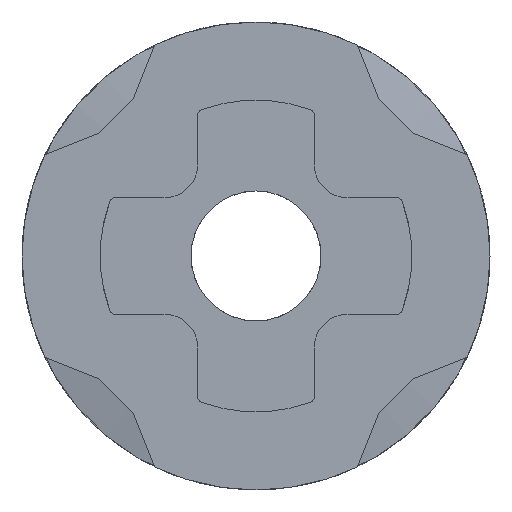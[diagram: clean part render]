
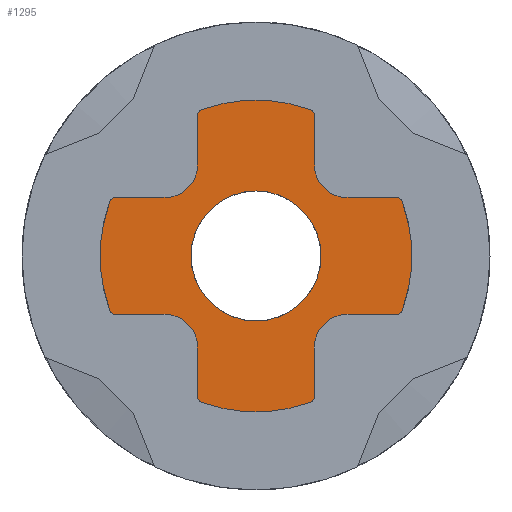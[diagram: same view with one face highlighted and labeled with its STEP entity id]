
A CAD part, left-side view. The second image highlights one B-rep face of the part: STEP entity #1295.
In plain terms, the highlighted planar face has unit normal (-1, 0, 0).
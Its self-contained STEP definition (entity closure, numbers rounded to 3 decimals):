
#43=PLANE('',#1419);
#61=CIRCLE('',#1356,1.);
#88=CIRCLE('',#1406,2.4);
#89=CIRCLE('',#1410,2.4);
#90=CIRCLE('',#1414,2.4);
#91=CIRCLE('',#1418,2.4);
#92=CIRCLE('',#1420,0.1);
#93=CIRCLE('',#1421,0.5);
#94=CIRCLE('',#1422,0.1);
#95=CIRCLE('',#1423,0.1);
#96=CIRCLE('',#1424,0.5);
#97=CIRCLE('',#1425,0.1);
#98=CIRCLE('',#1426,0.1);
#99=CIRCLE('',#1427,0.5);
#100=CIRCLE('',#1428,0.1);
#101=CIRCLE('',#1429,0.1);
#102=CIRCLE('',#1430,0.5);
#103=CIRCLE('',#1431,0.1);
#152=LINE('',#2154,#258);
#156=LINE('',#2162,#262);
#160=LINE('',#2172,#266);
#164=LINE('',#2180,#270);
#170=LINE('',#2206,#276);
#174=LINE('',#2214,#280);
#178=LINE('',#2224,#284);
#182=LINE('',#2232,#288);
#258=VECTOR('',#1637,1000.);
#262=VECTOR('',#1643,1000.);
#266=VECTOR('',#1653,1000.);
#270=VECTOR('',#1659,1000.);
#276=VECTOR('',#1671,1000.);
#280=VECTOR('',#1677,1000.);
#284=VECTOR('',#1687,1000.);
#288=VECTOR('',#1693,1000.);
#540=ORIENTED_EDGE('',*,*,#731,.F.);
#541=ORIENTED_EDGE('',*,*,#833,.T.);
#542=ORIENTED_EDGE('',*,*,#857,.T.);
#543=ORIENTED_EDGE('',*,*,#835,.T.);
#544=ORIENTED_EDGE('',*,*,#858,.T.);
#545=ORIENTED_EDGE('',*,*,#839,.T.);
#546=ORIENTED_EDGE('',*,*,#859,.T.);
#547=ORIENTED_EDGE('',*,*,#841,.T.);
#548=ORIENTED_EDGE('',*,*,#860,.T.);
#549=ORIENTED_EDGE('',*,*,#844,.T.);
#550=ORIENTED_EDGE('',*,*,#861,.T.);
#551=ORIENTED_EDGE('',*,*,#848,.T.);
#552=ORIENTED_EDGE('',*,*,#862,.T.);
#553=ORIENTED_EDGE('',*,*,#854,.T.);
#554=ORIENTED_EDGE('',*,*,#863,.T.);
#555=ORIENTED_EDGE('',*,*,#813,.T.);
#556=ORIENTED_EDGE('',*,*,#864,.T.);
#557=ORIENTED_EDGE('',*,*,#817,.T.);
#558=ORIENTED_EDGE('',*,*,#865,.T.);
#559=ORIENTED_EDGE('',*,*,#819,.T.);
#560=ORIENTED_EDGE('',*,*,#866,.T.);
#561=ORIENTED_EDGE('',*,*,#822,.T.);
#562=ORIENTED_EDGE('',*,*,#867,.T.);
#563=ORIENTED_EDGE('',*,*,#826,.T.);
#564=ORIENTED_EDGE('',*,*,#868,.T.);
#731=EDGE_CURVE('',#922,#922,#61,.T.);
#813=EDGE_CURVE('',#984,#985,#152,.T.);
#817=EDGE_CURVE('',#987,#986,#156,.T.);
#819=EDGE_CURVE('',#988,#989,#88,.T.);
#822=EDGE_CURVE('',#990,#991,#160,.T.);
#826=EDGE_CURVE('',#993,#992,#164,.T.);
#833=EDGE_CURVE('',#999,#998,#89,.T.);
#835=EDGE_CURVE('',#1000,#1001,#170,.T.);
#839=EDGE_CURVE('',#1003,#1002,#174,.T.);
#841=EDGE_CURVE('',#1004,#1005,#90,.T.);
#844=EDGE_CURVE('',#1006,#1007,#178,.T.);
#848=EDGE_CURVE('',#1009,#1008,#182,.T.);
#854=EDGE_CURVE('',#1014,#1015,#91,.T.);
#857=EDGE_CURVE('',#998,#1000,#92,.T.);
#858=EDGE_CURVE('',#1001,#1003,#93,.F.);
#859=EDGE_CURVE('',#1002,#1004,#94,.T.);
#860=EDGE_CURVE('',#1005,#1006,#95,.T.);
#861=EDGE_CURVE('',#1007,#1009,#96,.F.);
#862=EDGE_CURVE('',#1008,#1014,#97,.T.);
#863=EDGE_CURVE('',#1015,#984,#98,.T.);
#864=EDGE_CURVE('',#985,#987,#99,.F.);
#865=EDGE_CURVE('',#986,#988,#100,.T.);
#866=EDGE_CURVE('',#989,#990,#101,.T.);
#867=EDGE_CURVE('',#991,#993,#102,.F.);
#868=EDGE_CURVE('',#992,#999,#103,.T.);
#922=VERTEX_POINT('',#1932);
#984=VERTEX_POINT('',#2155);
#985=VERTEX_POINT('',#2156);
#986=VERTEX_POINT('',#2161);
#987=VERTEX_POINT('',#2163);
#988=VERTEX_POINT('',#2167);
#989=VERTEX_POINT('',#2168);
#990=VERTEX_POINT('',#2173);
#991=VERTEX_POINT('',#2174);
#992=VERTEX_POINT('',#2179);
#993=VERTEX_POINT('',#2181);
#998=VERTEX_POINT('',#2201);
#999=VERTEX_POINT('',#2203);
#1000=VERTEX_POINT('',#2207);
#1001=VERTEX_POINT('',#2208);
#1002=VERTEX_POINT('',#2213);
#1003=VERTEX_POINT('',#2215);
#1004=VERTEX_POINT('',#2219);
#1005=VERTEX_POINT('',#2220);
#1006=VERTEX_POINT('',#2225);
#1007=VERTEX_POINT('',#2226);
#1008=VERTEX_POINT('',#2231);
#1009=VERTEX_POINT('',#2233);
#1014=VERTEX_POINT('',#2253);
#1015=VERTEX_POINT('',#2254);
#1099=EDGE_LOOP('',(#540));
#1100=EDGE_LOOP('',(#541,#542,#543,#544,#545,#546,#547,#548,#549,#550,#551,
#552,#553,#554,#555,#556,#557,#558,#559,#560,#561,#562,#563,#564));
#1185=FACE_BOUND('',#1099,.T.);
#1186=FACE_BOUND('',#1100,.T.);
#1295=ADVANCED_FACE('',(#1185,#1186),#43,.T.);
#1356=AXIS2_PLACEMENT_3D('',#1931,#1503,#1504);
#1406=AXIS2_PLACEMENT_3D('',#2166,#1647,#1648);
#1410=AXIS2_PLACEMENT_3D('',#2202,#1666,#1667);
#1414=AXIS2_PLACEMENT_3D('',#2218,#1681,#1682);
#1418=AXIS2_PLACEMENT_3D('',#2252,#1699,#1700);
#1419=AXIS2_PLACEMENT_3D('',#2257,#1703,#1704);
#1420=AXIS2_PLACEMENT_3D('',#2258,#1705,#1706);
#1421=AXIS2_PLACEMENT_3D('',#2259,#1707,#1708);
#1422=AXIS2_PLACEMENT_3D('',#2260,#1709,#1710);
#1423=AXIS2_PLACEMENT_3D('',#2261,#1711,#1712);
#1424=AXIS2_PLACEMENT_3D('',#2262,#1713,#1714);
#1425=AXIS2_PLACEMENT_3D('',#2263,#1715,#1716);
#1426=AXIS2_PLACEMENT_3D('',#2264,#1717,#1718);
#1427=AXIS2_PLACEMENT_3D('',#2265,#1719,#1720);
#1428=AXIS2_PLACEMENT_3D('',#2266,#1721,#1722);
#1429=AXIS2_PLACEMENT_3D('',#2267,#1723,#1724);
#1430=AXIS2_PLACEMENT_3D('',#2268,#1725,#1726);
#1431=AXIS2_PLACEMENT_3D('',#2269,#1727,#1728);
#1503=DIRECTION('',(-1.,0.,0.));
#1504=DIRECTION('',(0.,0.,1.));
#1637=DIRECTION('',(0.,-1.,0.));
#1643=DIRECTION('',(0.,0.,-1.));
#1647=DIRECTION('',(-1.,0.,0.));
#1648=DIRECTION('',(0.,1.,0.));
#1653=DIRECTION('',(0.,0.,1.));
#1659=DIRECTION('',(0.,-1.,0.));
#1666=DIRECTION('',(-1.,0.,0.));
#1667=DIRECTION('',(0.,1.,0.));
#1671=DIRECTION('',(0.,1.,0.));
#1677=DIRECTION('',(0.,0.,1.));
#1681=DIRECTION('',(-1.,0.,0.));
#1682=DIRECTION('',(0.,1.,0.));
#1687=DIRECTION('',(0.,0.,-1.));
#1693=DIRECTION('',(0.,1.,0.));
#1699=DIRECTION('',(-1.,0.,0.));
#1700=DIRECTION('',(0.,-1.,0.));
#1703=DIRECTION('',(-1.,0.,0.));
#1704=DIRECTION('',(0.,-1.,0.));
#1705=DIRECTION('',(-1.,0.,0.));
#1706=DIRECTION('',(0.,-1.,0.));
#1707=DIRECTION('',(-1.,0.,0.));
#1708=DIRECTION('',(0.,-1.,0.));
#1709=DIRECTION('',(-1.,0.,0.));
#1710=DIRECTION('',(0.,-1.,0.));
#1711=DIRECTION('',(-1.,0.,0.));
#1712=DIRECTION('',(0.,-1.,0.));
#1713=DIRECTION('',(-1.,0.,0.));
#1714=DIRECTION('',(0.,-1.,0.));
#1715=DIRECTION('',(-1.,0.,0.));
#1716=DIRECTION('',(0.,-1.,0.));
#1717=DIRECTION('',(-1.,0.,0.));
#1718=DIRECTION('',(0.,-1.,0.));
#1719=DIRECTION('',(-1.,0.,0.));
#1720=DIRECTION('',(0.,-1.,0.));
#1721=DIRECTION('',(-1.,0.,0.));
#1722=DIRECTION('',(0.,-1.,0.));
#1723=DIRECTION('',(-1.,0.,0.));
#1724=DIRECTION('',(0.,-1.,0.));
#1725=DIRECTION('',(-1.,0.,0.));
#1726=DIRECTION('',(0.,-1.,0.));
#1727=DIRECTION('',(-1.,0.,0.));
#1728=DIRECTION('',(0.,-1.,0.));
#1931=CARTESIAN_POINT('',(0.,0.,0.));
#1932=CARTESIAN_POINT('',(0.,0.,1.));
#2154=CARTESIAN_POINT('',(0.,2.225,-0.9));
#2155=CARTESIAN_POINT('',(0.,2.156,-0.9));
#2156=CARTESIAN_POINT('',(0.,1.4,-0.9));
#2161=CARTESIAN_POINT('',(0.,0.9,-2.156));
#2162=CARTESIAN_POINT('',(0.,0.9,-0.9));
#2163=CARTESIAN_POINT('',(0.,0.9,-1.4));
#2166=CARTESIAN_POINT('',(0.,0.,0.));
#2167=CARTESIAN_POINT('',(0.,0.835,-2.25));
#2168=CARTESIAN_POINT('',(0.,-0.835,-2.25));
#2172=CARTESIAN_POINT('',(0.,-0.9,-2.225));
#2173=CARTESIAN_POINT('',(0.,-0.9,-2.156));
#2174=CARTESIAN_POINT('',(0.,-0.9,-1.4));
#2179=CARTESIAN_POINT('',(0.,-2.156,-0.9));
#2180=CARTESIAN_POINT('',(0.,-0.9,-0.9));
#2181=CARTESIAN_POINT('',(0.,-1.4,-0.9));
#2201=CARTESIAN_POINT('',(0.,-2.25,0.835));
#2202=CARTESIAN_POINT('',(0.,0.,0.));
#2203=CARTESIAN_POINT('',(0.,-2.25,-0.835));
#2206=CARTESIAN_POINT('',(0.,-2.225,0.9));
#2207=CARTESIAN_POINT('',(0.,-2.156,0.9));
#2208=CARTESIAN_POINT('',(0.,-1.4,0.9));
#2213=CARTESIAN_POINT('',(0.,-0.9,2.156));
#2214=CARTESIAN_POINT('',(0.,-0.9,0.9));
#2215=CARTESIAN_POINT('',(0.,-0.9,1.4));
#2218=CARTESIAN_POINT('',(0.,0.,0.));
#2219=CARTESIAN_POINT('',(0.,-0.835,2.25));
#2220=CARTESIAN_POINT('',(0.,0.835,2.25));
#2224=CARTESIAN_POINT('',(0.,0.9,2.225));
#2225=CARTESIAN_POINT('',(0.,0.9,2.156));
#2226=CARTESIAN_POINT('',(0.,0.9,1.4));
#2231=CARTESIAN_POINT('',(0.,2.156,0.9));
#2232=CARTESIAN_POINT('',(0.,0.9,0.9));
#2233=CARTESIAN_POINT('',(0.,1.4,0.9));
#2252=CARTESIAN_POINT('',(0.,0.,0.));
#2253=CARTESIAN_POINT('',(0.,2.25,0.835));
#2254=CARTESIAN_POINT('',(0.,2.25,-0.835));
#2257=CARTESIAN_POINT('',(0.,0.,0.));
#2258=CARTESIAN_POINT('',(0.,-2.156,0.8));
#2259=CARTESIAN_POINT('',(0.,-1.4,1.4));
#2260=CARTESIAN_POINT('',(0.,-0.8,2.156));
#2261=CARTESIAN_POINT('',(0.,0.8,2.156));
#2262=CARTESIAN_POINT('',(0.,1.4,1.4));
#2263=CARTESIAN_POINT('',(0.,2.156,0.8));
#2264=CARTESIAN_POINT('',(0.,2.156,-0.8));
#2265=CARTESIAN_POINT('',(0.,1.4,-1.4));
#2266=CARTESIAN_POINT('',(0.,0.8,-2.156));
#2267=CARTESIAN_POINT('',(0.,-0.8,-2.156));
#2268=CARTESIAN_POINT('',(0.,-1.4,-1.4));
#2269=CARTESIAN_POINT('',(0.,-2.156,-0.8));
